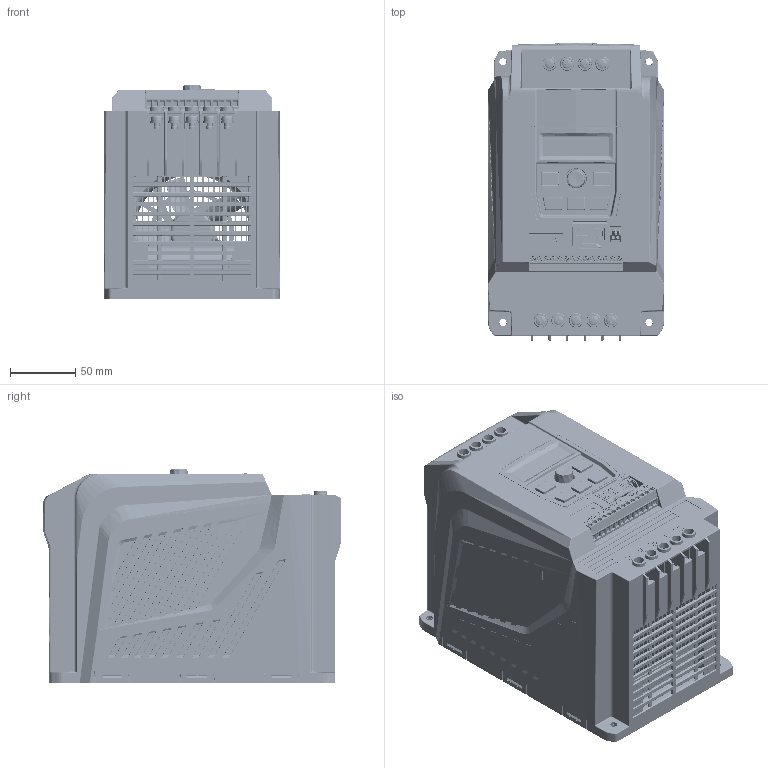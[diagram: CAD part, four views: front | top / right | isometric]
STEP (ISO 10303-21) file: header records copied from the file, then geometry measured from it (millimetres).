
FILE_DESCRIPTION(('STEP AP203'), '1');
FILE_NAME('NCI-G4.0-1B _ Ïðåîáðàçîâàòåëü ÷àñòîòû', '2026-07-06T10:29:26', (' '), (' '), 'C3D Converter', 'C3D Toolkit', '');
FILE_SCHEMA(('CONFIG_CONTROL_DESIGN'));
Length unit declared in the file: millimetre
Products named in the file (1): NCI-G4.0-1B
Bounding box: 135.03 x 228 x 163.79 mm (x, y, z)
Volume: 1053566.3 mm3; surface area: 1153034.8 mm2
Topology: 40 solids, 54 shells, 11688 faces, 30707 edges, 19258 vertices
Faces by surface type: plane 5575, cylinder 2597, bspline 1627, extrusion 739, cone 565, torus 375, sphere 210
Full cylindrical faces by diameter (mm): 0.5 x14, 0.635 x1, 0.762 x2, 0.8 x2, 0.9 x8, 1 x28, 1.1 x4, 1.27 x2, 1.3 x1, 1.4 x16, 1.5 x6, 2 x15, 2.3 x2, 2.5 x8, 2.54 x5, 3 x14, 3.1 x14, 3.3 x5, 3.5 x11, 4 x10, 4.1 x30, 4.2 x2, 4.51 x9, 5 x9, 5.3 x9, 5.7 x1, 6 x1, 6.2 x2, 6.7 x1, 6.8 x1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
Entity records: 599454 total; most frequent: CARTESIAN_POINT 243045, ORIENTED_EDGE 59356, DIRECTION 45198, EDGE_CURVE 29680, VERTEX_POINT 19205, VECTOR 17278, LINE 16539, AXIS2_PLACEMENT_3D 13960
